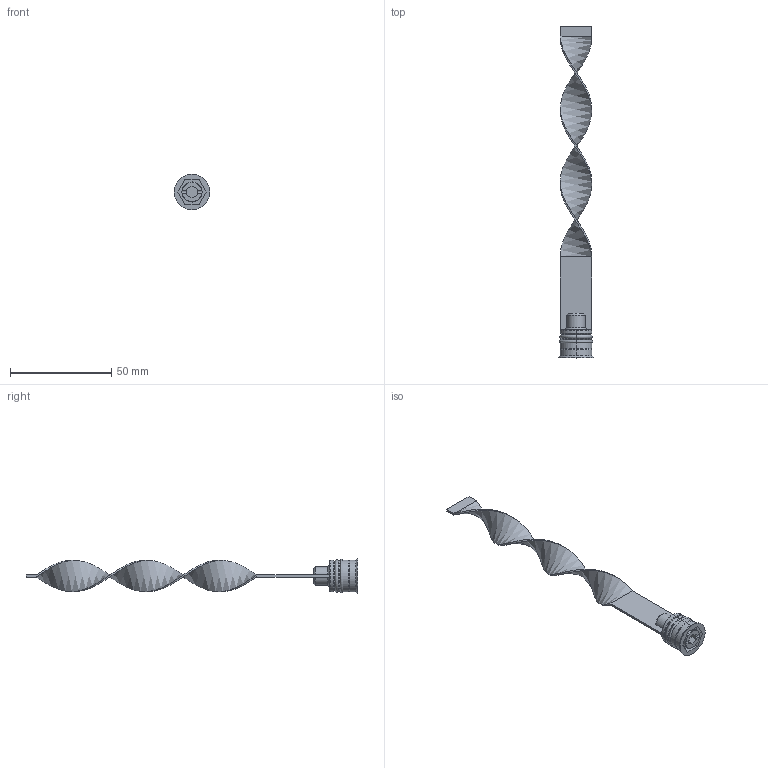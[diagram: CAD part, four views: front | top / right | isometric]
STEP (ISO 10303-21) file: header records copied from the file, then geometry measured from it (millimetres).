
FILE_DESCRIPTION (( 'STEP AP203' ), '1' );
FILE_NAME ('RLS-16Fx150-15,5.STEP', '2015-12-09T14:46:33', ( 'Balzi' ), ( '' ), 'SwSTEP 2.0', 'SolidWorks 2015', '' );
FILE_SCHEMA (( 'CONFIG_CONTROL_DESIGN' ));
Length unit declared in the file: millimetre
Products named in the file (1): RLS-16Fx150-15,5
Bounding box: 17.5 x 164 x 17.5 mm (x, y, z)
Volume: 5253.9 mm3; surface area: 6967.3 mm2
Topology: 1 solids, 1 shells, 83 faces, 193 edges, 117 vertices
Faces by surface type: plane 35, cone 19, cylinder 17, torus 8, bspline 4
Entity records: 3497 total; most frequent: CARTESIAN_POINT 1540, DIRECTION 402, ORIENTED_EDGE 386, EDGE_CURVE 193, AXIS2_PLACEMENT_3D 151, VERTEX_POINT 117, LINE 100, VECTOR 100
